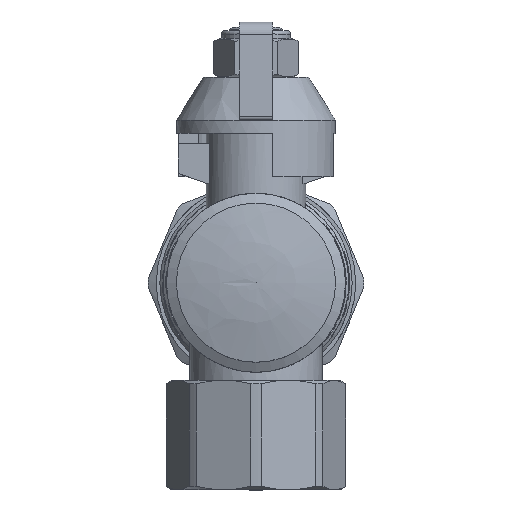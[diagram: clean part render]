
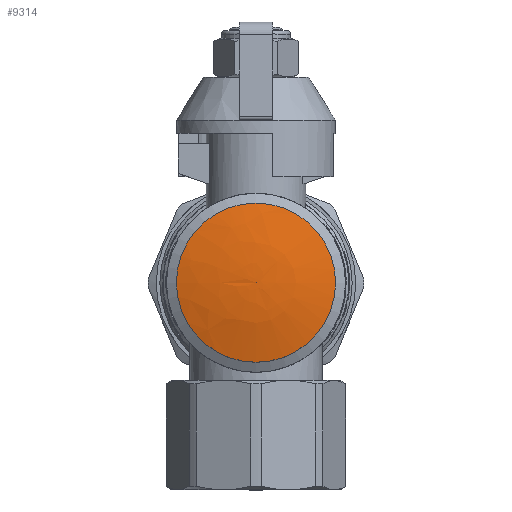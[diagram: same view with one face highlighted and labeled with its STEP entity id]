
A CAD part, top view. The second image highlights one B-rep face of the part: STEP entity #9314.
In plain terms, the highlighted free-form (B-spline) face has degree [2, 2] with [3, 9] control points.
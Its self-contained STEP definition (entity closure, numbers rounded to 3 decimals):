
#15=(
BOUNDED_SURFACE()
B_SPLINE_SURFACE(2,2,((#26330,#26331,#26332,#26333,#26334,#26335,#26336,
#26337,#26338),(#26339,#26340,#26341,#26342,#26343,#26344,#26345,#26346,
#26347),(#26348,#26349,#26350,#26351,#26352,#26353,#26354,#26355,#26356)),
 .UNSPECIFIED.,.F.,.T.,.F.)
B_SPLINE_SURFACE_WITH_KNOTS((3,3),(3,2,2,2,3),(1.311,1.582),
(-3.142,-1.571,0.,1.571,3.142),
 .UNSPECIFIED.)
GEOMETRIC_REPRESENTATION_ITEM()
RATIONAL_B_SPLINE_SURFACE(((1.,0.707,1.,0.707,1.,
0.707,1.,0.707,1.),(0.991,0.701,
0.991,0.701,0.991,0.701,
0.991,0.701,0.991),(1.,0.707,
1.,0.707,1.,0.707,1.,0.707,1.)))
REPRESENTATION_ITEM('')
SURFACE()
);
#80=(
BOUNDED_CURVE()
B_SPLINE_CURVE(2,(#26359,#26360,#26361),.UNSPECIFIED.,.F.,.F.)
B_SPLINE_CURVE_WITH_KNOTS((3,3),(-1.582,-1.311),
 .UNSPECIFIED.)
CURVE()
GEOMETRIC_REPRESENTATION_ITEM()
RATIONAL_B_SPLINE_CURVE((1.,0.991,1.))
REPRESENTATION_ITEM('')
);
#724=CIRCLE('',#9994,12.);
#725=CIRCLE('',#9995,12.);
#1338=FACE_OUTER_BOUND('',#1937,.T.);
#1937=EDGE_LOOP('',(#8537,#8538,#8539,#8540));
#4487=VERTEX_POINT('',#26357);
#4488=VERTEX_POINT('',#26358);
#4489=VERTEX_POINT('',#26362);
#5858=EDGE_CURVE('',#4487,#4488,#80,.T.);
#5859=EDGE_CURVE('',#4488,#4489,#724,.T.);
#5860=EDGE_CURVE('',#4489,#4488,#725,.T.);
#8537=ORIENTED_EDGE('',*,*,#5858,.T.);
#8538=ORIENTED_EDGE('',*,*,#5859,.T.);
#8539=ORIENTED_EDGE('',*,*,#5860,.T.);
#8540=ORIENTED_EDGE('',*,*,#5858,.F.);
#9314=ADVANCED_FACE('',(#1338),#15,.F.);
#9994=AXIS2_PLACEMENT_3D('',#26363,#11938,#11939);
#9995=AXIS2_PLACEMENT_3D('',#26364,#11940,#11941);
#11938=DIRECTION('center_axis',(0.,0.,1.));
#11939=DIRECTION('ref_axis',(1.,0.,0.));
#11940=DIRECTION('center_axis',(0.,0.,1.));
#11941=DIRECTION('ref_axis',(1.,0.,0.));
#26330=CARTESIAN_POINT('Ctrl Pts',(-12.,0.,
14.5));
#26331=CARTESIAN_POINT('Ctrl Pts',(-12.,-12.,
14.5));
#26332=CARTESIAN_POINT('Ctrl Pts',(0.,-12.,
14.5));
#26333=CARTESIAN_POINT('Ctrl Pts',(12.,-12.,14.5));
#26334=CARTESIAN_POINT('Ctrl Pts',(12.,0.,
14.5));
#26335=CARTESIAN_POINT('Ctrl Pts',(12.,12.,14.5));
#26336=CARTESIAN_POINT('Ctrl Pts',(0.,12.,
14.5));
#26337=CARTESIAN_POINT('Ctrl Pts',(-12.,12.,14.5));
#26338=CARTESIAN_POINT('Ctrl Pts',(-12.,0.,
14.5));
#26339=CARTESIAN_POINT('Ctrl Pts',(-6.102,0.,
16.066));
#26340=CARTESIAN_POINT('Ctrl Pts',(-6.102,-6.102,16.066));
#26341=CARTESIAN_POINT('Ctrl Pts',(0.,-6.102,
16.066));
#26342=CARTESIAN_POINT('Ctrl Pts',(6.102,-6.102,16.066));
#26343=CARTESIAN_POINT('Ctrl Pts',(6.102,0.,
16.066));
#26344=CARTESIAN_POINT('Ctrl Pts',(6.102,6.102,16.066));
#26345=CARTESIAN_POINT('Ctrl Pts',(0.,6.102,
16.066));
#26346=CARTESIAN_POINT('Ctrl Pts',(-6.102,6.102,16.066));
#26347=CARTESIAN_POINT('Ctrl Pts',(-6.102,0.,
16.066));
#26348=CARTESIAN_POINT('Ctrl Pts',(0.,0.,
16.));
#26349=CARTESIAN_POINT('Ctrl Pts',(0.,0.,
16.));
#26350=CARTESIAN_POINT('Ctrl Pts',(0.,0.,
16.));
#26351=CARTESIAN_POINT('Ctrl Pts',(0.,0.,
16.));
#26352=CARTESIAN_POINT('Ctrl Pts',(0.,0.,
16.));
#26353=CARTESIAN_POINT('Ctrl Pts',(0.,0.,
16.));
#26354=CARTESIAN_POINT('Ctrl Pts',(0.,0.,
16.));
#26355=CARTESIAN_POINT('Ctrl Pts',(0.,0.,
16.));
#26356=CARTESIAN_POINT('Ctrl Pts',(0.,0.,
16.));
#26357=CARTESIAN_POINT('',(0.,0.,16.));
#26358=CARTESIAN_POINT('',(-12.,0.,14.5));
#26359=CARTESIAN_POINT('Ctrl Pts',(0.,0.,
16.));
#26360=CARTESIAN_POINT('Ctrl Pts',(-6.102,0.,
16.066));
#26361=CARTESIAN_POINT('Ctrl Pts',(-12.,0.,
14.5));
#26362=CARTESIAN_POINT('',(0.,-12.,14.5));
#26363=CARTESIAN_POINT('Origin',(0.,0.,14.5));
#26364=CARTESIAN_POINT('Origin',(0.,0.,14.5));
